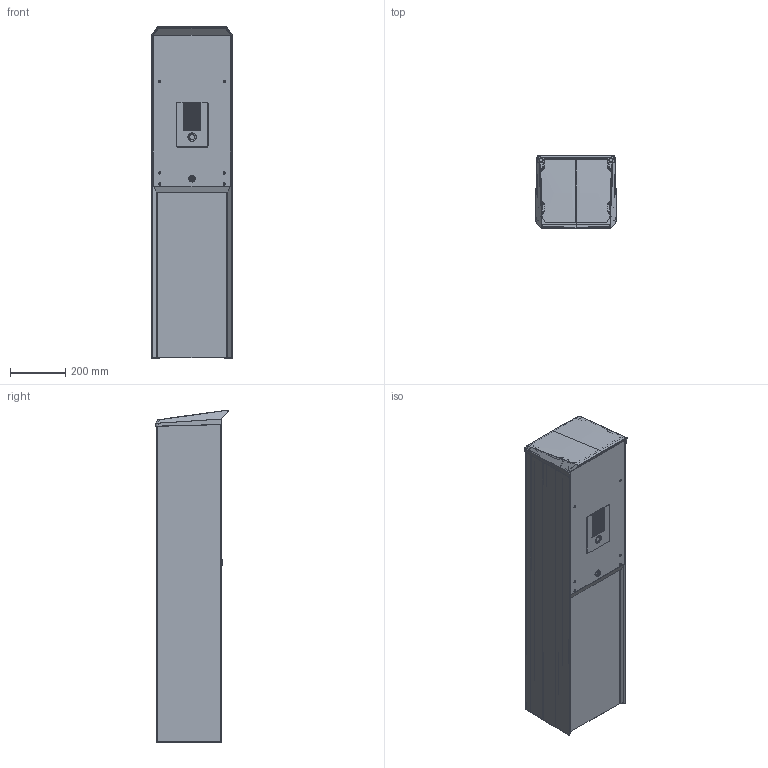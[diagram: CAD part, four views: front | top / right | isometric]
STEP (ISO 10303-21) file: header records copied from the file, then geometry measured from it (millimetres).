
FILE_DESCRIPTION(/* description */ ('Unknown'),/* implementation_level */ '2;1');
FILE_NAME(/* name */ '55860018_01',/* time_stamp */ '2023-03-07T07:18:20+01:00',/* author */ ('Unknown'),/* organization */ ('Unknown'),/* preprocessor_version */ 'ST-DEVELOPER v18.102',/* originating_system */ 'Solid Edge',/* authorisation */ 'Unknown');
FILE_SCHEMA (('AUTOMOTIVE_DESIGN {1 0 10303 214 3 1 1}'));
Products named in the file (29): 55860018; TERMINAL-MH-A000; TERMINAL-MH-A000-rueckwand_450_0; TERMINAL-MH-A000-seitenwand_links_450_0; TERMINAL-MH-A000-bedienfront_450_0; TERMINAL-MH-A000-unteres_frontblech_450_0; TERMINAL-MH-A000-seitenwand_rechts_450_0; TERMINAL_kvt_fhs_m6x15_0; TERMINAL_kvt_fhs_m6x15-oa0_0; TERMINAL-MH-A000-profilschutz_rechts_0; TERMINAL-MH-A000-profilschutz_links_0; TERMINAL-MH-A000-skiffy_raendelmutter_m6_141006069916_0; TERMINAL-MH-A000-deckel_0; TERMINAL-MH-A000-deckel_00; 33075008_0; TERMINAL_kvt_fhs_m6x12_0; TERMINAL_kvt_fhs_m6x12-oa1_0; TERMINAL_kvt_fhs_m6x12-oa2_0; TERMINAL_kvt_fhs_m6x12-oa3_0; TERMINAL_kvt_fhs_m6x12-oa4_0; TERMINAL_kvt_fhs_m6x12-oa5_0; TERMINAL-MH-A000-schloss_schranke_SCHLOSS_0; TERMINAL-MH-A00020585064_0; TERMINAL-MH-A00034685017_0; TERMINAL-MH-A00034680028a_0; TERMINAL-MH-A00034680028b_0; TERMINAL-MH-A00034680028c_0; TERMINAL-MH-A00034680028d_0; TERMINAL_Sprechanlage
Assembly tree (29 placements, depth 5):
  55860018
    TERMINAL-MH-A000
      TERMINAL-MH-A000-rueckwand_450_0
      TERMINAL-MH-A000-seitenwand_links_450_0
      TERMINAL-MH-A000-bedienfront_450_0
      TERMINAL-MH-A000-unteres_frontblech_450_0
      TERMINAL-MH-A000-seitenwand_rechts_450_0
      TERMINAL_kvt_fhs_m6x15_0
      TERMINAL_kvt_fhs_m6x15-oa0_0
      TERMINAL-MH-A000-profilschutz_rechts_0
      TERMINAL-MH-A000-profilschutz_links_0
      TERMINAL-MH-A000-skiffy_raendelmutter_m6_141006069916_0
      TERMINAL-MH-A000-deckel_0
        TERMINAL-MH-A000-deckel_00
      33075008_0  x2
      TERMINAL_kvt_fhs_m6x12_0
      TERMINAL_kvt_fhs_m6x12-oa1_0
      TERMINAL_kvt_fhs_m6x12-oa2_0
      TERMINAL_kvt_fhs_m6x12-oa3_0
      TERMINAL_kvt_fhs_m6x12-oa4_0
      TERMINAL_kvt_fhs_m6x12-oa5_0
      TERMINAL-MH-A000-schloss_schranke_SCHLOSS_0
        TERMINAL-MH-A00020585064_0
        TERMINAL-MH-A00034685017_0
          TERMINAL-MH-A00034680028a_0
          TERMINAL-MH-A00034680028b_0
          TERMINAL-MH-A00034680028c_0
          TERMINAL-MH-A00034680028d_0
    TERMINAL_Sprechanlage
Bounding box: 295.67 x 265.75 x 1201.62 mm (x, y, z)
Volume: 4522359.8 mm3; surface area: 3785128.7 mm2
Topology: 24 solids, 1108 shells, 2067 faces, 7618 edges, 6633 vertices
Faces by surface type: cylinder 816, plane 578, bspline 490, cone 80, sphere 52, torus 51
Full cylindrical faces by diameter (mm): 3 x2, 3.6 x4, 4.5 x4, 5 x2, 6 x25, 6.242 x2, 6.973 x8, 8.66 x2, 9 x4, 10 x3, 10.2 x1, 14.5 x1, 16 x1, 17 x1, 19 x1, 20 x2, 35 x1
Entity records: 129395 total; most frequent: CARTESIAN_POINT 59723, DIRECTION 12332, ORIENTED_EDGE 9676, EDGE_CURVE 7319, VERTEX_POINT 6548, AXIS2_PLACEMENT_3D 4753, LINE 2826, VECTOR 2826
